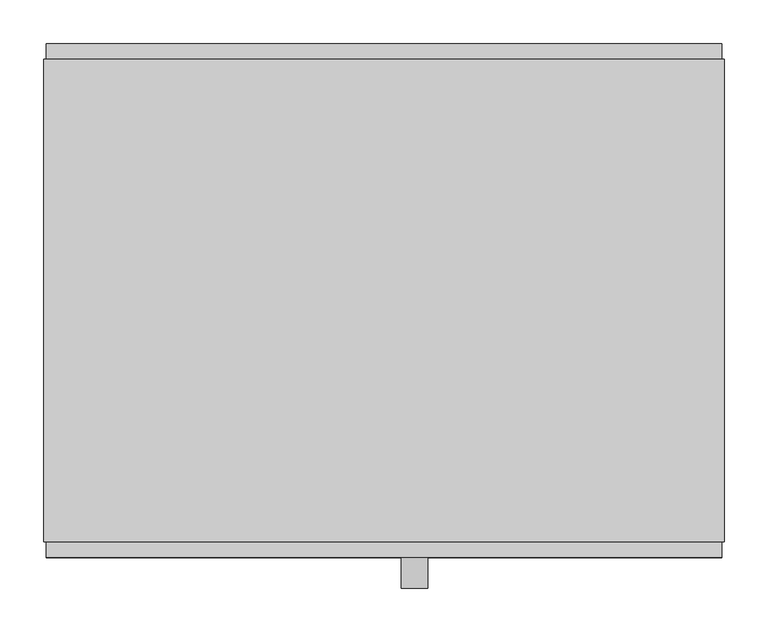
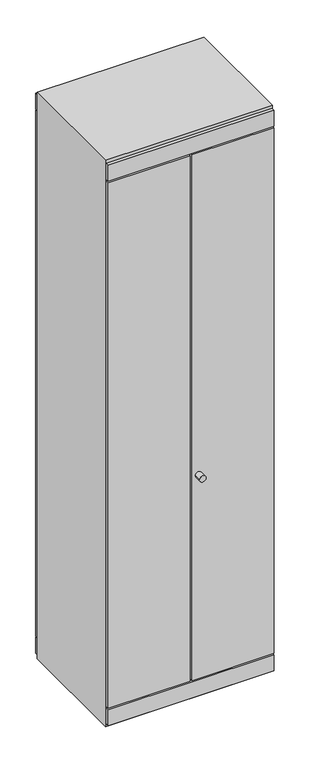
"""IFC4 building model written with IfcOpenShell, lengths in millimetres: furniture geometry, Apex - 2 DOOR - FC OR CAPPED : 2 DOOR - F/C OR CAPPED 800mm(w) x 590mm(d)."""

from ifc_helpers import new_model, si_unit, point, frame, frame_2d, origin, place, context, project, spatial, polyline, circle_curve, trimmed, segment, composite_curve, outline, extrude, source, transform, mapped, element, save


def furniture_dc89b629(model_context):
    return source(origin(), model_context, "Body", "SweptSolid", [
        extrude(outline(composite_curve([segment(trimmed(circle_curve(frame_2d((1108.0, 426.0)), 15.0), [point((1108.0, 411.0))], [point((1108.0, 441.0))], False, "CARTESIAN"), True, "CONTINUOUS"), segment(trimmed(circle_curve(frame_2d((1108.0, 426.0)), 15.0), [point((1108.0, 441.0))], [point((1108.0, 411.0))], False, "CARTESIAN"), True, "CONTINUOUS")], self_intersect=False)), frame((0.0, -625.0, 0.0), z_axis=(0.0, 1.0, 0.0), x_axis=(0.0, 0.0, 1.0)), (0.0, 0.0, 1.0), 35.0),
        extrude(outline(polyline([(2800.0, 782.0), (2800.0, 0.0), (0.0, 0.0), (0.0, 782.0), (2800.0, 782.0)]), holes=[polyline([(115.0, 773.0), (115.0, 9.0), (2685.2991236, 9.0), (2685.2991236, 773.0), (115.0, 773.0)])]), frame((0.0, -572.0, 0.0), z_axis=(0.0, 1.0, 0.0), x_axis=(0.0, 0.0, 1.0)), (0.0, 0.0, 1.0), 554.0),
        extrude(outline(polyline([(386.0, -572.0), (386.0, -590.0), (3.0, -590.0), (3.0, -572.0), (386.0, -572.0)])), frame((0.0, 0.0, 100.0), z_axis=(0.0, 0.0, 1.0), x_axis=(1.0, 0.0, 0.0)), (0.0, 0.0, 1.0), 2600.0),
        extrude(outline(polyline([(779.0, -590.0), (396.0, -590.0), (396.0, -572.0), (779.0, -572.0), (779.0, -590.0)])), frame((0.0, 0.0, 100.0), z_axis=(0.0, 0.0, 1.0), x_axis=(1.0, 0.0, 0.0)), (0.0, 0.0, 1.0), 2600.0),
        extrude(outline(polyline([(779.0, 0.0), (779.0, -18.0), (3.0, -18.0), (3.0, 0.0), (779.0, 0.0)])), frame((0.0, 0.0, 100.0), z_axis=(0.0, 0.0, 1.0), x_axis=(1.0, 0.0, 0.0)), (0.0, 0.0, 1.0), 2600.0),
        extrude(outline(polyline([(779.0, -18.0), (3.0, -18.0), (3.0, 0.0), (779.0, 0.0), (779.0, -18.0)])), frame((0.0, 0.0, 2706.0), z_axis=(0.0, 0.0, 1.0), x_axis=(1.0, 0.0, 0.0)), (0.0, 0.0, 1.0), 79.0),
        extrude(outline(polyline([(779.0, -18.0), (3.0, -18.0), (3.0, 0.0), (779.0, 0.0), (779.0, -18.0)])), frame((0.0, 0.0, 15.0), z_axis=(0.0, 0.0, 1.0), x_axis=(1.0, 0.0, 0.0)), (0.0, 0.0, 1.0), 79.0),
        extrude(outline(polyline([(779.0, -590.0), (3.0, -590.0), (3.0, -572.0), (779.0, -572.0), (779.0, -590.0)])), frame((0.0, 0.0, 2706.0), z_axis=(0.0, 0.0, 1.0), x_axis=(1.0, 0.0, 0.0)), (0.0, 0.0, 1.0), 79.0),
        extrude(outline(polyline([(779.0, -590.0), (3.0, -590.0), (3.0, -572.0), (779.0, -572.0), (779.0, -590.0)])), frame((0.0, 0.0, 15.0), z_axis=(0.0, 0.0, 1.0), x_axis=(1.0, 0.0, 0.0)), (0.0, 0.0, 1.0), 79.0),
    ])


if __name__ == "__main__":
    model = new_model("IFC4")
    model_context = context("Model", 3, world=origin())
    ifc_project = project(units=[si_unit("LENGTHUNIT", "METRE", prefix="MILLI")], contexts=[model_context])
    site = spatial("IfcSite", under=ifc_project)
    building = spatial("IfcBuilding", under=site)
    placement = place(None, origin())
    furniture_shape = furniture_dc89b629(model_context)
    element("IfcFurniture", 1, ObjectType="Apex - 2 DOOR - FC OR CAPPED : 2 DOOR - F/C OR CAPPED 800mm(w) x 590mm(d)", at=placement, inside=building, context=model_context, shape_type="MappedRepresentation", body=[
        mapped(furniture_shape, transform((0.0, 0.0, 0.0), x_axis=(1.0, 0.0, 0.0), y_axis=(0.0, 1.0, 0.0), z_axis=(0.0, 0.0, 1.0))),
    ])
    save(model, "model.ifc")
